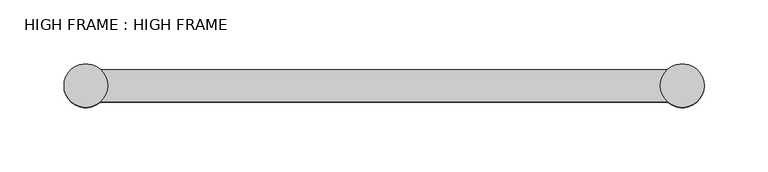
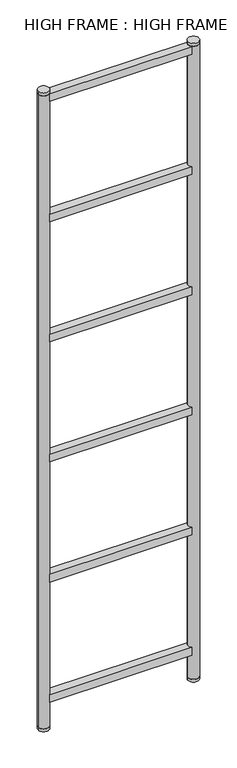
"""IFC4 building model written with IfcOpenShell, lengths in millimetres: furniture geometry, HIGH FRAME : HIGH FRAME."""

from ifc_helpers import new_model, si_unit, point, frame, frame_2d, origin, origin_with_axes, place, context, project, spatial, polyline, circle_curve, trimmed, segment, composite_curve, outline, extrude, source, transform, mapped, element, save


def high_frame_high_frame_7210b2e9(model_context):
    return source(origin(), model_context, "Body", "SweptSolid", [
        extrude(outline(composite_curve([segment(trimmed(circle_curve(frame_2d((236.5, 0.0)), 17.0), [point((224.9782814, 12.5))], [point((224.9782814, -12.5))], True, "CARTESIAN"), True, "CONTINUOUS"), segment(polyline([(224.9782814, -12.5), (-217.9782814, -12.5)]), True, "CONTINUOUS"), segment(trimmed(circle_curve(frame_2d((-229.5, 0.0)), 17.0), [point((-217.9782814, -12.5))], [point((-217.9782814, 12.5))], True, "CARTESIAN"), True, "CONTINUOUS"), segment(polyline([(-217.9782814, 12.5), (224.9782814, 12.5)]), True, "CONTINUOUS")], self_intersect=False)), frame((0.0, 0.0, 2064.0), z_axis=(0.0, 0.0, 1.0), x_axis=(1.0, 0.0, 0.0)), (0.0, 0.0, 1.0), 25.0),
        extrude(outline(composite_curve([segment(trimmed(circle_curve(frame_2d((236.5, 0.0)), 17.0), [point((224.9782814, 12.5))], [point((224.9782814, -12.5))], True, "CARTESIAN"), True, "CONTINUOUS"), segment(polyline([(224.9782814, -12.5), (-217.9782814, -12.5)]), True, "CONTINUOUS"), segment(trimmed(circle_curve(frame_2d((-229.5, 0.0)), 17.0), [point((-217.9782814, -12.5))], [point((-217.9782814, 12.5))], True, "CARTESIAN"), True, "CONTINUOUS"), segment(polyline([(-217.9782814, 12.5), (224.9782814, 12.5)]), True, "CONTINUOUS")], self_intersect=False)), frame((0.0, 0.0, 1669.0), z_axis=(0.0, 0.0, 1.0), x_axis=(1.0, 0.0, 0.0)), (0.0, 0.0, 1.0), 25.0),
        extrude(outline(composite_curve([segment(trimmed(circle_curve(frame_2d((236.5, 0.0)), 17.0), [point((224.9782814, 12.5))], [point((224.9782814, -12.5))], True, "CARTESIAN"), True, "CONTINUOUS"), segment(polyline([(224.9782814, -12.5), (-217.9782814, -12.5)]), True, "CONTINUOUS"), segment(trimmed(circle_curve(frame_2d((-229.5, 0.0)), 17.0), [point((-217.9782814, -12.5))], [point((-217.9782814, 12.5))], True, "CARTESIAN"), True, "CONTINUOUS"), segment(polyline([(-217.9782814, 12.5), (224.9782814, 12.5)]), True, "CONTINUOUS")], self_intersect=False)), frame((0.0, 0.0, 1274.0), z_axis=(0.0, 0.0, 1.0), x_axis=(1.0, 0.0, 0.0)), (0.0, 0.0, 1.0), 25.0),
        extrude(outline(composite_curve([segment(trimmed(circle_curve(frame_2d((236.5, 0.0)), 17.0), [point((224.9782814, 12.5))], [point((224.9782814, -12.5))], True, "CARTESIAN"), True, "CONTINUOUS"), segment(polyline([(224.9782814, -12.5), (-217.9782814, -12.5)]), True, "CONTINUOUS"), segment(trimmed(circle_curve(frame_2d((-229.5, 0.0)), 17.0), [point((-217.9782814, -12.5))], [point((-217.9782814, 12.5))], True, "CARTESIAN"), True, "CONTINUOUS"), segment(polyline([(-217.9782814, 12.5), (224.9782814, 12.5)]), True, "CONTINUOUS")], self_intersect=False)), frame((0.0, 0.0, 879.0), z_axis=(0.0, 0.0, 1.0), x_axis=(1.0, 0.0, 0.0)), (0.0, 0.0, 1.0), 25.0),
        extrude(outline(composite_curve([segment(trimmed(circle_curve(frame_2d((236.5, 0.0)), 17.0), [point((224.9782814, 12.5))], [point((224.9782814, -12.5))], True, "CARTESIAN"), True, "CONTINUOUS"), segment(polyline([(224.9782814, -12.5), (-217.9782814, -12.5)]), True, "CONTINUOUS"), segment(trimmed(circle_curve(frame_2d((-229.5, 0.0)), 17.0), [point((-217.9782814, -12.5))], [point((-217.9782814, 12.5))], True, "CARTESIAN"), True, "CONTINUOUS"), segment(polyline([(-217.9782814, 12.5), (224.9782814, 12.5)]), True, "CONTINUOUS")], self_intersect=False)), frame((0.0, 0.0, 484.0), z_axis=(0.0, 0.0, 1.0), x_axis=(1.0, 0.0, 0.0)), (0.0, 0.0, 1.0), 25.0),
        extrude(outline(composite_curve([segment(trimmed(circle_curve(frame_2d((236.5, 0.0)), 17.0), [point((224.9782814, 12.5))], [point((224.9782814, -12.5))], True, "CARTESIAN"), True, "CONTINUOUS"), segment(polyline([(224.9782814, -12.5), (-217.9782814, -12.5)]), True, "CONTINUOUS"), segment(trimmed(circle_curve(frame_2d((-229.5, 0.0)), 17.0), [point((-217.9782814, -12.5))], [point((-217.9782814, 12.5))], True, "CARTESIAN"), True, "CONTINUOUS"), segment(polyline([(-217.9782814, 12.5), (224.9782814, 12.5)]), True, "CONTINUOUS")], self_intersect=False)), frame((0.0, 0.0, 89.0), z_axis=(0.0, 0.0, 1.0), x_axis=(1.0, 0.0, 0.0)), (0.0, 0.0, 1.0), 25.0),
        extrude(outline(composite_curve([segment(trimmed(circle_curve(frame_2d((-229.5, 0.0)), 17.0), [point((-212.5, 0.0))], [point((-246.5, 0.0))], False, "CARTESIAN"), True, "CONTINUOUS"), segment(trimmed(circle_curve(frame_2d((-229.5, 0.0)), 17.0), [point((-246.5, 0.0))], [point((-212.5, 0.0))], False, "CARTESIAN"), True, "CONTINUOUS")], self_intersect=False)), frame((0.0, 0.0, 2091.0), z_axis=(0.0, 0.0, 1.0), x_axis=(1.0, 0.0, 0.0)), (0.0, 0.0, 1.0), 9.0),
        extrude(outline(composite_curve([segment(trimmed(circle_curve(frame_2d((-229.5, 0.0)), 17.0), [point((-212.5, 0.0))], [point((-246.5, 0.0))], False, "CARTESIAN"), True, "CONTINUOUS"), segment(trimmed(circle_curve(frame_2d((-229.5, 0.0)), 17.0), [point((-246.5, 0.0))], [point((-212.5, 0.0))], False, "CARTESIAN"), True, "CONTINUOUS")], self_intersect=False)), origin_with_axes(), (0.0, 0.0, 1.0), 9.0),
        extrude(outline(composite_curve([segment(trimmed(circle_curve(frame_2d((-229.5, 0.0)), 17.0), [point((-212.5, 0.0))], [point((-246.5, 0.0))], False, "CARTESIAN"), True, "CONTINUOUS"), segment(trimmed(circle_curve(frame_2d((-229.5, 0.0)), 17.0), [point((-246.5, 0.0))], [point((-212.5, 0.0))], False, "CARTESIAN"), True, "CONTINUOUS")], self_intersect=False)), frame((0.0, 0.0, 9.0), z_axis=(0.0, 0.0, 1.0), x_axis=(1.0, 0.0, 0.0)), (0.0, 0.0, 1.0), 2082.0),
        extrude(outline(composite_curve([segment(trimmed(circle_curve(frame_2d((236.5, 0.0)), 17.0), [point((219.5, 0.0))], [point((253.5, 0.0))], False, "CARTESIAN"), True, "CONTINUOUS"), segment(trimmed(circle_curve(frame_2d((236.5, 0.0)), 17.0), [point((253.5, 0.0))], [point((219.5, 0.0))], False, "CARTESIAN"), True, "CONTINUOUS")], self_intersect=False)), frame((0.0, 0.0, 2091.0), z_axis=(0.0, 0.0, 1.0), x_axis=(1.0, 0.0, 0.0)), (0.0, 0.0, 1.0), 9.0),
        extrude(outline(composite_curve([segment(trimmed(circle_curve(frame_2d((236.5, 0.0)), 17.0), [point((219.5, 0.0))], [point((253.5, 0.0))], False, "CARTESIAN"), True, "CONTINUOUS"), segment(trimmed(circle_curve(frame_2d((236.5, 0.0)), 17.0), [point((253.5, 0.0))], [point((219.5, 0.0))], False, "CARTESIAN"), True, "CONTINUOUS")], self_intersect=False)), origin_with_axes(), (0.0, 0.0, 1.0), 9.0),
        extrude(outline(composite_curve([segment(trimmed(circle_curve(frame_2d((236.5, 0.0)), 17.0), [point((219.5, 0.0))], [point((253.5, 0.0))], False, "CARTESIAN"), True, "CONTINUOUS"), segment(trimmed(circle_curve(frame_2d((236.5, 0.0)), 17.0), [point((253.5, 0.0))], [point((219.5, 0.0))], False, "CARTESIAN"), True, "CONTINUOUS")], self_intersect=False)), frame((0.0, 0.0, 9.0), z_axis=(0.0, 0.0, 1.0), x_axis=(1.0, 0.0, 0.0)), (0.0, 0.0, 1.0), 2082.0),
    ])


if __name__ == "__main__":
    model = new_model("IFC4")
    model_context = context("Model", 3, world=origin())
    ifc_project = project(units=[si_unit("LENGTHUNIT", "METRE", prefix="MILLI")], contexts=[model_context])
    site = spatial("IfcSite", under=ifc_project)
    building = spatial("IfcBuilding", under=site)
    placement = place(None, origin())
    high_frame_high_frame_shape = high_frame_high_frame_7210b2e9(model_context)
    element("IfcFurniture", 1, ObjectType="HIGH FRAME : HIGH FRAME", at=placement, inside=building, context=model_context, shape_type="MappedRepresentation", body=[
        mapped(high_frame_high_frame_shape, transform((0.0, 0.0, 0.0), x_axis=(1.0, 0.0, 0.0), y_axis=(0.0, 1.0, 0.0), z_axis=(0.0, 0.0, 1.0))),
    ])
    save(model, "model.ifc")
